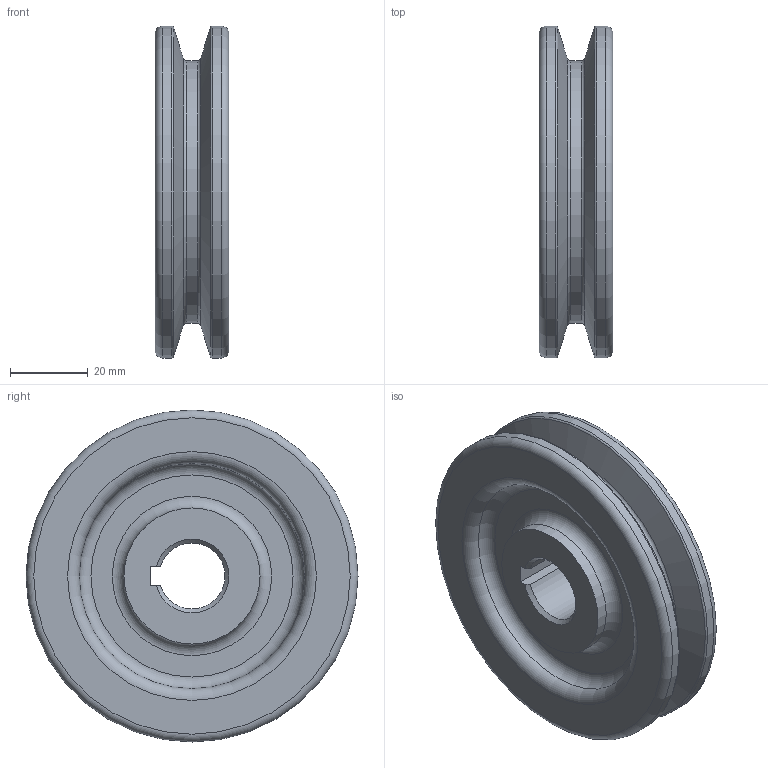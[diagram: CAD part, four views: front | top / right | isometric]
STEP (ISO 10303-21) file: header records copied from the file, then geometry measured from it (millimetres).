
FILE_DESCRIPTION(/* description */ (''),/* implementation_level */ '2;1');
FILE_NAME(/* name */ 'Z:\1116_기계캐드마스터\김호경\381118E1012-v벨트풀리.stp',/* time_stamp */ '2018-11-16T16:06:19+09:00',/* author */ ('User'),/* organization */ (''),/* preprocessor_version */ 'ST-DEVELOPER v17',/* originating_system */ 'Autodesk Inventor 2018',/* authorisation */ '');
FILE_SCHEMA (('AUTOMOTIVE_DESIGN { 1 0 10303 214 3 1 1 }'));
Length unit declared in the file: millimetre
Products named in the file (1): 부품1
Bounding box: 19 x 85.4 x 85.4 mm (x, y, z)
Volume: 68925.3 mm3; surface area: 21627.4 mm2
Topology: 1 solids, 1 shells, 31 faces, 97 edges, 72 vertices
Faces by surface type: torus 12, plane 9, cylinder 6, cone 4
Full cylindrical faces by diameter (mm): 35 x2, 67.4 x1, 85.4 x2
Entity records: 1202 total; most frequent: DIRECTION 233, CARTESIAN_POINT 209, ORIENTED_EDGE 194, AXIS2_PLACEMENT_3D 108, EDGE_CURVE 97, CIRCLE 76, VERTEX_POINT 72, EDGE_LOOP 37
